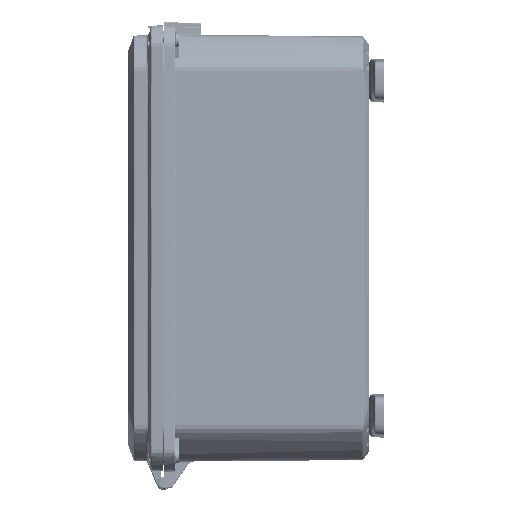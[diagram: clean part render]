
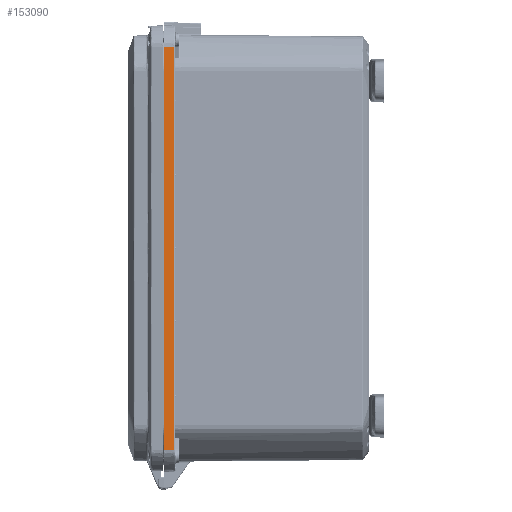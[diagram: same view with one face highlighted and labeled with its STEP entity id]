
A CAD part, left-side view. The second image highlights one B-rep face of the part: STEP entity #153090.
In plain terms, the highlighted planar face has unit normal (-0.999, -0.035, 0).
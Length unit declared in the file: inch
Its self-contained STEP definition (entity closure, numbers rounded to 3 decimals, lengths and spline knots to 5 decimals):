
#18728 = ORIENTED_EDGE ( 'NONE', *, *, #100094, .T. ) ;
#26693 = DIRECTION ( 'NONE',  ( 0., 0., 1. ) ) ;
#27167 = ORIENTED_EDGE ( 'NONE', *, *, #229289, .F. ) ;
#30182 = VERTEX_POINT ( 'NONE', #35480 ) ;
#33012 = CARTESIAN_POINT ( 'NONE',  ( -8.62, 0., 6.89046 ) ) ;
#35480 = CARTESIAN_POINT ( 'NONE',  ( -8.60772, -0.35174, 6.89046 ) ) ;
#47178 = EDGE_CURVE ( 'NONE', #287059, #30182, #257743, .T. ) ;
#64940 = VECTOR ( 'NONE', #138724, 39.37008 ) ;
#71490 = CARTESIAN_POINT ( 'NONE',  ( -8.60772, -0.35174, -6.89046 ) ) ;
#79301 = VECTOR ( 'NONE', #171452, 39.37008 ) ;
#80785 = DIRECTION ( 'NONE',  ( 0.035, -0.999, 0. ) ) ;
#100094 = EDGE_CURVE ( 'NONE', #116768, #287059, #225984, .T. ) ;
#104523 = EDGE_CURVE ( 'NONE', #116768, #169062, #299988, .T. ) ;
#104934 = PLANE ( 'NONE',  #295003 ) ;
#109781 = CARTESIAN_POINT ( 'NONE',  ( -8.60772, -0.35174, 6.89046 ) ) ;
#116257 = VECTOR ( 'NONE', #184973, 39.37008 ) ;
#116768 = VERTEX_POINT ( 'NONE', #274793 ) ;
#138332 = CARTESIAN_POINT ( 'NONE',  ( -8.62, 0., 6.89046 ) ) ;
#138724 = DIRECTION ( 'NONE',  ( 0., 0., 1. ) ) ;
#151647 = DIRECTION ( 'NONE',  ( -0.999, -0.035, 0. ) ) ;
#153090 = ADVANCED_FACE ( 'NONE', ( #302734 ), #104934, .T. ) ;
#162443 = LINE ( 'NONE', #138332, #116257 ) ;
#169062 = VERTEX_POINT ( 'NONE', #33012 ) ;
#171452 = DIRECTION ( 'NONE',  ( 0.035, -0.999, 0. ) ) ;
#184973 = DIRECTION ( 'NONE',  ( 0.035, -0.999, 0. ) ) ;
#199925 = ORIENTED_EDGE ( 'NONE', *, *, #104523, .F. ) ;
#204629 = CARTESIAN_POINT ( 'NONE',  ( -8.62, 0., 7.3 ) ) ;
#224375 = VECTOR ( 'NONE', #26693, 39.37008 ) ;
#225984 = LINE ( 'NONE', #245392, #79301 ) ;
#227070 = EDGE_LOOP ( 'NONE', ( #247167, #27167, #199925, #18728 ) ) ;
#229289 = EDGE_CURVE ( 'NONE', #169062, #30182, #162443, .T. ) ;
#245392 = CARTESIAN_POINT ( 'NONE',  ( -8.62, 0., -6.89046 ) ) ;
#247167 = ORIENTED_EDGE ( 'NONE', *, *, #47178, .T. ) ;
#257743 = LINE ( 'NONE', #109781, #64940 ) ;
#274793 = CARTESIAN_POINT ( 'NONE',  ( -8.62, 0., -6.89046 ) ) ;
#287059 = VERTEX_POINT ( 'NONE', #71490 ) ;
#295003 = AXIS2_PLACEMENT_3D ( 'NONE', #204629, #151647, #80785 ) ;
#295263 = CARTESIAN_POINT ( 'NONE',  ( -8.62, 0., 7.3 ) ) ;
#299988 = LINE ( 'NONE', #295263, #224375 ) ;
#302734 = FACE_OUTER_BOUND ( 'NONE', #227070, .T. ) ;
